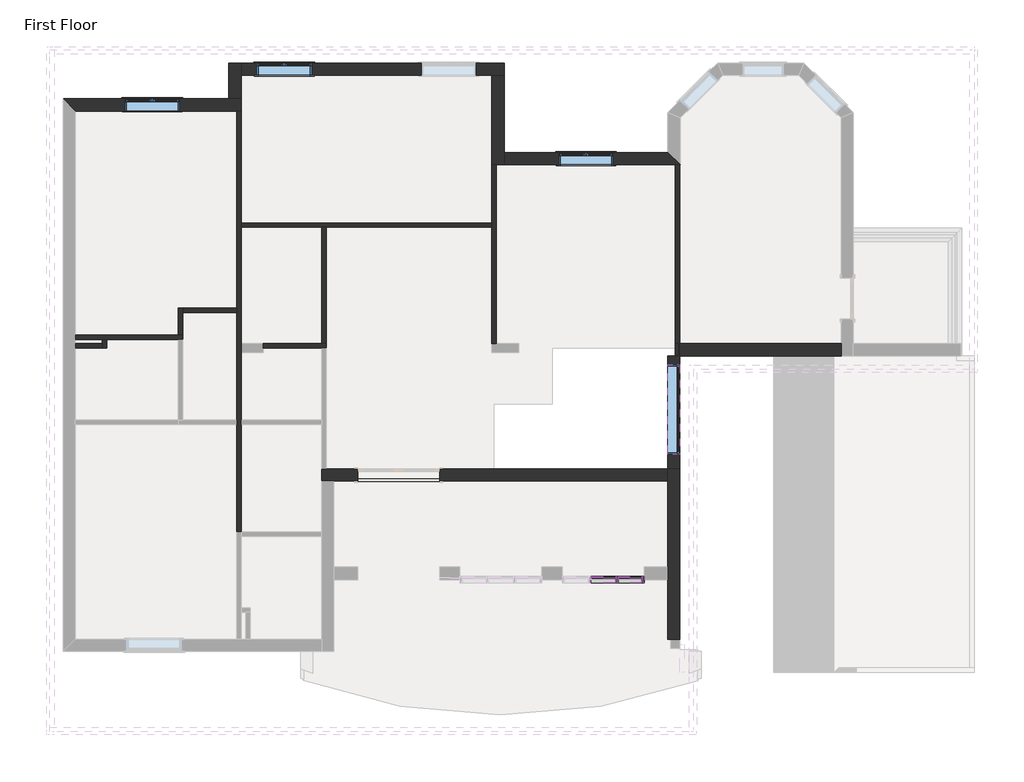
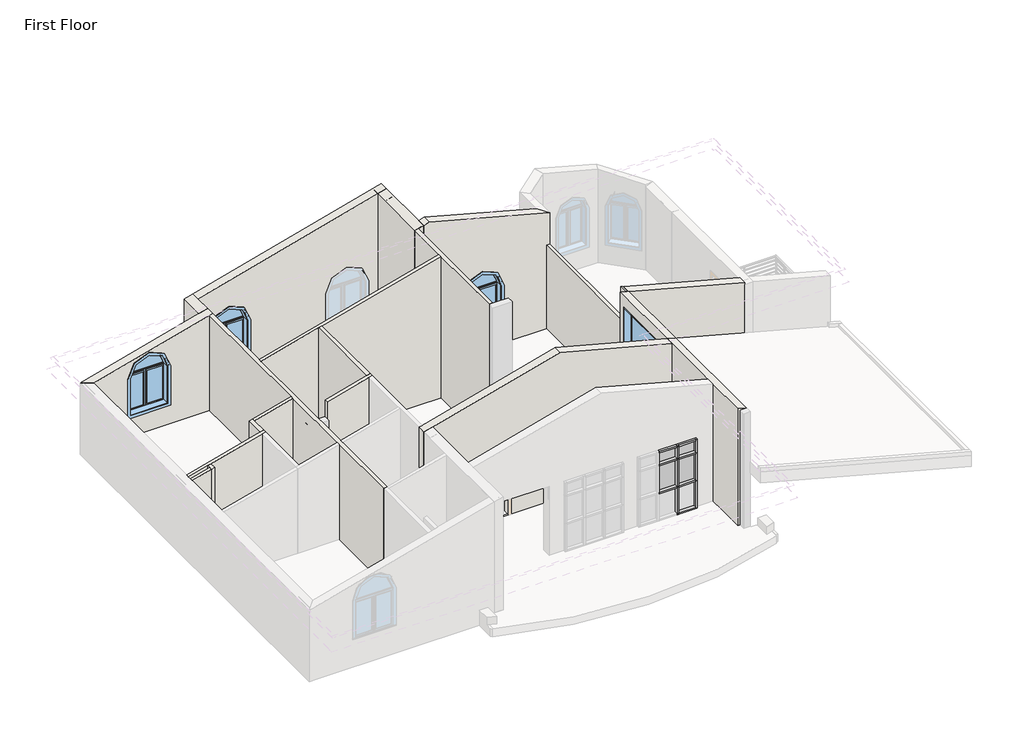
# One storey, part 2 of 3: 21 walls, 13 members, 5 windows, 4 plates.
"""IFC4 building model written with IfcOpenShell, lengths in millimetres."""

from ifc_helpers import new_model, si_unit, frame, origin, place, context, project, spatial, polyline, circle_curve, outline, extrude, faceted_brep, transform, mapped, element, save
from ifc_brep_helpers import plane_surface, revolved_surface, advanced_brep
from components import rectangular_mullion_50mm_x_150mm_ca11c66a, rectangular_mullion_50mm_x_150mm_94dfdfd7, rectangular_mullion_50mm_x_150mm_c5372db2, rectangular_mullion_50mm_x_150mm_8d9d5cce, rectangular_mullion_50mm_x_150mm_36cc9eb6, rectangular_mullion_50mm_x_150mm_df95c845, rectangular_mullion_50mm_x_150mm_b06d37f8, rectangular_mullion_50mm_x_150mm_dacbbbe8, system_panel_glazed_54fbfc96, system_panel_glazed_1253e8ac, system_panel_glazed_4efe49fa, system_panel_glazed_77dbd889, window_1220_x_1220mm_cc1a8abd, m_fixed_2000_x_1200mm_66f1d0cd

model = new_model("IFC4")

# Units and contexts
model_context = context("Model", 3, world=origin())
ifc_project = project(units=[si_unit("LENGTHUNIT", "METRE", prefix="MILLI")], contexts=[model_context])

# Site, building, storey
site = spatial("IfcSite", under=ifc_project)
building = spatial("IfcBuilding", under=site)
storey = spatial("IfcBuildingStorey", under=building, Name="First Floor", Elevation=3000.0)

# Members
placement = place(None, origin())
rectangular_mullion_50mm_x_150mm_shape = rectangular_mullion_50mm_x_150mm_ca11c66a(model_context)
element("IfcMember", 1, ObjectType="Rectangular Mullion : 50mm x 150mm", at=placement, inside=storey, context=model_context, shape_type="MappedRepresentation", body=[
    mapped(rectangular_mullion_50mm_x_150mm_shape, transform((4447.918054, -4965.1659495, 4833.3333333), x_axis=(0.0, 0.0, 1.0), y_axis=(0.0, -1.0, 0.0), z_axis=(1.0, 0.0, 0.0))),
])
element("IfcMember", 2, ObjectType="Rectangular Mullion : 50mm x 150mm", at=placement, inside=storey, context=model_context, shape_type="MappedRepresentation", body=[
    mapped(rectangular_mullion_50mm_x_150mm_shape, transform((4447.918054, -4965.1659495, 3916.6666667), x_axis=(0.0, 0.0, 1.0), y_axis=(0.0, -1.0, 0.0), z_axis=(1.0, 0.0, 0.0))),
])
rectangular_mullion_50mm_x_150mm_2_shape = rectangular_mullion_50mm_x_150mm_94dfdfd7(model_context)
element("IfcMember", 3, ObjectType="Rectangular Mullion : 50mm x 150mm", at=placement, inside=storey, context=model_context, shape_type="MappedRepresentation", body=[
    mapped(rectangular_mullion_50mm_x_150mm_2_shape, transform((4472.918054, -4965.1659495, 3916.6666667), x_axis=(1.0, 0.0, 0.0), y_axis=(0.0, -1.0, 0.0), z_axis=(0.0, 0.0, -1.0))),
])
rectangular_mullion_50mm_x_150mm_3_shape = rectangular_mullion_50mm_x_150mm_c5372db2(model_context)
element("IfcMember", 4, ObjectType="Rectangular Mullion : 50mm x 150mm", at=placement, inside=storey, context=model_context, shape_type="MappedRepresentation", body=[
    mapped(rectangular_mullion_50mm_x_150mm_3_shape, transform((4472.918054, -4965.1659495, 4833.3333333), x_axis=(1.0, 0.0, 0.0), y_axis=(0.0, -1.0, 0.0), z_axis=(0.0, 0.0, -1.0))),
])
rectangular_mullion_50mm_x_150mm_4_shape = rectangular_mullion_50mm_x_150mm_8d9d5cce(model_context)
element("IfcMember", 5, ObjectType="Rectangular Mullion : 50mm x 150mm", at=placement, inside=storey, context=model_context, shape_type="MappedRepresentation", body=[
    mapped(rectangular_mullion_50mm_x_150mm_4_shape, transform((4447.918054, -4965.1659495, 5278.2737043), x_axis=(0.0, 0.0, 1.0), y_axis=(0.0, -1.0, 0.0), z_axis=(1.0, 0.0, 0.0))),
])
rectangular_mullion_50mm_x_150mm_5_shape = rectangular_mullion_50mm_x_150mm_36cc9eb6(model_context)
element("IfcMember", 6, ObjectType="Rectangular Mullion : 50mm x 150mm", at=placement, inside=storey, context=model_context, shape_type="MappedRepresentation", body=[
    mapped(rectangular_mullion_50mm_x_150mm_5_shape, transform((5032.918054, -4965.1659495, 4833.3333333), x_axis=(0.0, 0.0, 1.0), y_axis=(0.0, -1.0, 0.0), z_axis=(1.0, 0.0, 0.0))),
])
element("IfcMember", 7, ObjectType="Rectangular Mullion : 50mm x 150mm", at=placement, inside=storey, context=model_context, shape_type="MappedRepresentation", body=[
    mapped(rectangular_mullion_50mm_x_150mm_5_shape, transform((5032.918054, -4965.1659495, 3916.6666667), x_axis=(0.0, 0.0, 1.0), y_axis=(0.0, -1.0, 0.0), z_axis=(1.0, 0.0, 0.0))),
])
rectangular_mullion_50mm_x_150mm_6_shape = rectangular_mullion_50mm_x_150mm_df95c845(model_context)
element("IfcMember", 8, ObjectType="Rectangular Mullion : 50mm x 150mm", at=placement, inside=storey, context=model_context, shape_type="MappedRepresentation", body=[
    mapped(rectangular_mullion_50mm_x_150mm_6_shape, transform((5032.918054, -4965.1659495, 5278.2737043), x_axis=(0.0, 0.0, 1.0), y_axis=(0.0, -1.0, 0.0), z_axis=(1.0, 0.0, 0.0))),
])
rectangular_mullion_50mm_x_150mm_7_shape = rectangular_mullion_50mm_x_150mm_b06d37f8(model_context)
element("IfcMember", 9, ObjectType="Rectangular Mullion : 50mm x 150mm", at=placement, inside=storey, context=model_context, shape_type="MappedRepresentation", body=[
    mapped(rectangular_mullion_50mm_x_150mm_7_shape, transform((5082.918054, -4965.1659495, 4833.3333333), x_axis=(1.0, 0.0, 0.0), y_axis=(0.0, -1.0, 0.0), z_axis=(0.0, 0.0, -1.0))),
])
rectangular_mullion_50mm_x_150mm_8_shape = rectangular_mullion_50mm_x_150mm_dacbbbe8(model_context)
element("IfcMember", 10, ObjectType="Rectangular Mullion : 50mm x 150mm", at=placement, inside=storey, context=model_context, shape_type="MappedRepresentation", body=[
    mapped(rectangular_mullion_50mm_x_150mm_8_shape, transform((5082.918054, -4965.1659495, 3916.6666667), x_axis=(1.0, 0.0, 0.0), y_axis=(0.0, -1.0, 0.0), z_axis=(0.0, 0.0, -1.0))),
])
element("IfcMember", 11, ObjectType="Rectangular Mullion : 50mm x 150mm", at=placement, inside=storey, context=model_context, shape_type="MappedRepresentation", body=[
    mapped(rectangular_mullion_50mm_x_150mm_2_shape, transform((4472.918054, -4965.1659495, 3000.0), x_axis=(1.0, 0.0, 0.0), y_axis=(0.0, -1.0, 0.0), z_axis=(0.0, 0.0, -1.0))),
])
element("IfcMember", 12, ObjectType="Rectangular Mullion : 50mm x 150mm", at=placement, inside=storey, context=model_context, shape_type="MappedRepresentation", body=[
    mapped(rectangular_mullion_50mm_x_150mm_6_shape, transform((4497.918054, -4965.1659495, 3000.0), x_axis=(0.0, 0.0, -1.0), y_axis=(0.0, -1.0, 0.0), z_axis=(-1.0, 0.0, 0.0))),
])
element("IfcMember", 13, ObjectType="Rectangular Mullion : 50mm x 150mm", at=placement, inside=storey, context=model_context, shape_type="MappedRepresentation", body=[
    mapped(rectangular_mullion_50mm_x_150mm_8_shape, transform((5082.918054, -4965.1659495, 3000.0), x_axis=(1.0, 0.0, 0.0), y_axis=(0.0, -1.0, 0.0), z_axis=(0.0, 0.0, -1.0))),
])

# Plates
system_panel_glazed_shape = system_panel_glazed_54fbfc96(model_context)
element("IfcPlate", 14, ObjectType="System Panel : Glazed", at=placement, inside=storey, context=model_context, shape_type="MappedRepresentation", body=[
    mapped(system_panel_glazed_shape, transform((4167.918054, -4965.1659495, 3941.6666667), x_axis=(1.0, 0.0, 0.0), y_axis=(0.0, 1.0, 0.0), z_axis=(0.0, 0.0, 1.0))),
])
system_panel_glazed_2_shape = system_panel_glazed_1253e8ac(model_context)
element("IfcPlate", 15, ObjectType="System Panel : Glazed", at=placement, inside=storey, context=model_context, shape_type="MappedRepresentation", body=[
    mapped(system_panel_glazed_2_shape, transform((4167.918054, -4965.1659495, 4858.3333333), x_axis=(1.0, 0.0, 0.0), y_axis=(0.0, 1.0, 0.0), z_axis=(0.0, 0.0, 1.0))),
])
system_panel_glazed_3_shape = system_panel_glazed_4efe49fa(model_context)
element("IfcPlate", 16, ObjectType="System Panel : Glazed", at=placement, inside=storey, context=model_context, shape_type="MappedRepresentation", body=[
    mapped(system_panel_glazed_3_shape, transform((4765.418054, -4965.1659495, 3941.6666667), x_axis=(1.0, 0.0, 0.0), y_axis=(0.0, 1.0, 0.0), z_axis=(0.0, 0.0, 1.0))),
])
system_panel_glazed_4_shape = system_panel_glazed_77dbd889(model_context)
element("IfcPlate", 17, ObjectType="System Panel : Glazed", at=placement, inside=storey, context=model_context, shape_type="MappedRepresentation", body=[
    mapped(system_panel_glazed_4_shape, transform((4765.418054, -4965.1659495, 4858.3333333), x_axis=(1.0, 0.0, 0.0), y_axis=(0.0, 1.0, 0.0), z_axis=(0.0, 0.0, 1.0))),
])

# Walls
element("IfcWall", 18, ObjectType="Generic - 270 mm", at=placement, inside=storey, context=model_context, shape_type="AdvancedBrep", body=[
    advanced_brep(
    [(-7617.081946, 5504.8340505, 3000.0), (-4017.081946, 5504.8340505, 3000.0), (-3917.081946, 5504.8340505, 3000.0), (-3917.081946, 5504.8340505, 6163.758294), (-4017.081946, 5504.8340505, 6136.9633747), (-7617.081946, 5504.8340505, 5172.346282), (-5292.081946, 5504.8340505, 4919.05), (-5292.081946, 5504.8340505, 3680.0), (-6512.081946, 5504.8340505, 3680.0), (-6512.081946, 5504.8340505, 4919.05), (-7887.081946, 5774.8340505, 2750.0), (-7887.081946, 5774.8340505, 5100.0), (-4187.081946, 5774.8340505, 6091.412012), (-3917.081946, 5774.8340505, 6163.758294), (-3917.081946, 5774.8340505, 3000.0), (-3917.081946, 5774.8340505, 2750.0), (-4132.081946, 5774.8340505, 2750.0), (-4187.081946, 5774.8340505, 2750.0), (-7617.081946, 5774.8340505, 2750.0), (-5292.081946, 5774.8340505, 4919.05), (-6512.081946, 5774.8340505, 4919.05), (-6512.081946, 5774.8340505, 3680.0), (-5292.081946, 5774.8340505, 3680.0), (-7832.081946, 5719.8340505, 2750.0), (-7832.081946, 5719.8340505, 3000.0), (-3917.081946, 5719.8340505, 3000.0), (-3917.081946, 5719.8340505, 2750.0)],
    [
        (0, 1),
        (1, 2),
        (2, 3),
        (3, 4),
        (4, 5),
        (5, 0),
        (6, 7),
        (7, 8),
        (8, 9),
        (9, 6, circle_curve(frame((-5902.081946, 5504.8340505, 4919.05), z_axis=(0.0, 1.0, 0.0), x_axis=(1.0, 0.0, 0.0)), 610.0)),
        (10, 11),
        (11, 12),
        (12, 13),
        (13, 14),
        (14, 15),
        (15, 16),
        (16, 17),
        (17, 18),
        (18, 10),
        (19, 20, circle_curve(frame((-5902.081946, 5774.8340505, 4919.05), z_axis=(0.0, -1.0, 0.0), x_axis=(1.0, 0.0, 0.0)), 610.0)),
        (20, 21),
        (21, 22),
        (22, 19),
        (5, 11),
        (10, 23),
        (23, 24),
        (24, 0),
        (2, 25),
        (25, 26),
        (26, 15),
        (13, 3),
        (24, 25),
        (23, 26),
        (6, 19),
        (22, 7),
        (21, 8),
        (20, 9),
    ],
    [
        plane_surface(frame((-7887.081946, 5504.8340505, 3000.0), z_axis=(0.0, -1.0, 0.0), x_axis=(1.0, 0.0, 0.0))),
        plane_surface(frame((-7887.081946, 5774.8340505, 3000.0), z_axis=(0.0, 1.0, 0.0), x_axis=(-1.0, 0.0, 0.0))),
        plane_surface(frame((-7887.081946, 5774.8340505, 3000.0), z_axis=(-0.707106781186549, -0.7071067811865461, 0.0), x_axis=(0.7071067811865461, -0.707106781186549, 0.0))),
        plane_surface(frame((-3917.081946, 5774.8340505, 3000.0), z_axis=(1.0, 0.0, 0.0), x_axis=(0.0, 1.0, 0.0))),
        plane_surface(frame((-7752.081946, 5504.8340505, 3000.0), z_axis=(0.0, 0.0, -1.0), x_axis=(0.0, 1.0, 0.0))),
        plane_surface(frame((-7752.081946, 5719.8340505, 3000.0), z_axis=(0.0, -1.0, 0.0), x_axis=(1.0, 0.0, 0.0))),
        plane_surface(frame((0.0, 0.0, 2750.0), z_axis=(0.0, 0.0, -1.0), x_axis=(1.0, 0.0, 0.0))),
        plane_surface(frame((-8187.081946, 6874.8340505, 5019.6152423), z_axis=(-0.25881904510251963, 0.0, 0.9659258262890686), x_axis=(0.0, -1.0, 0.0))),
        plane_surface(frame((-5292.081946, 5504.8340505, 4919.05), z_axis=(-1.0, 0.0, 0.0), x_axis=(0.0, 1.0, 0.0))),
        plane_surface(frame((-5292.081946, 5504.8340505, 3680.0), z_axis=(0.0, 0.0, 1.0), x_axis=(0.0, 1.0, 0.0))),
        plane_surface(frame((-6512.081946, 5504.8340505, 3680.0), z_axis=(1.0, 0.0, 0.0), x_axis=(0.0, 1.0, 0.0))),
        revolved_surface(polyline([(-5292.081946, 5774.8340505, 4919.05), (-5292.081946, 5504.8340505, 4919.05)]), (-5902.081946, 5504.8340505, 4919.05), (0.0, 1.0, 0.0)),
    ],
    [
        (0, [[1, 2, 3, 4, 5, 6], [7, 8, 9, 10]]),
        (1, [[11, 12, 13, 14, 15, 16, 17, 18, 19], [20, 21, 22, 23]]),
        (2, [[-6, 24, -11, 25, 26, 27]]),
        (3, [[-3, 28, 29, 30, -15, -14, 31]]),
        (4, [[-2, -1, -27, 32, -28]]),
        (5, [[-32, -26, 33, -29]]),
        (6, [[-25, -19, -18, -17, -16, -30, -33]]),
        (7, [[-5, -4, -31, -13, -12, -24]]),
        (8, [[-7, 34, -23, 35]]),
        (9, [[-8, -35, -22, 36]]),
        (10, [[-9, -36, -21, 37]]),
        (11, [[-10, -37, -20, -34]]),
    ],
),
])
element("IfcWall", 19, ObjectType="Generic - 270 mm", at=placement, inside=storey, context=model_context, shape_type="Brep", body=[
    faceted_brep([(-3917.081946, 5774.8340505, 3000.0), (-3917.081946, 6304.8340505, 3000.0), (-3917.081946, 6574.8340505, 3000.0), (-3917.081946, 6574.8340505, 6163.758294), (-3917.081946, 6304.8340505, 6163.758294), (-3917.081946, 5774.8340505, 6163.758294), (-4187.081946, 5774.8340505, 2750.0), (-4187.081946, 5774.8340505, 6091.412012), (-4187.081946, 6574.8340505, 6091.412012), (-4187.081946, 6574.8340505, 2750.0), (-4132.081946, 6574.8340505, 3000.0), (-4132.081946, 6574.8340505, 2750.0), (-4132.081946, 5774.8340505, 2750.0), (-4132.081946, 5774.8340505, 3000.0), (-4132.081946, 6519.8340505, 3000.0), (-4132.081946, 6519.8340505, 2750.0)], [[[0, 1, 2, 3, 4, 5]], [[6, 7, 8, 9]], [[3, 2, 10, 11, 9, 8]], [[0, 5, 7, 6, 12, 13]], [[5, 4, 3, 8, 7]], [[2, 1, 0, 13, 14, 10]], [[10, 14, 13, 12, 15, 11]], [[12, 6, 9, 11, 15]]]),
])
element("IfcWall", 20, ObjectType="Generic - 270 mm", at=placement, inside=storey, context=model_context, shape_type="AdvancedBrep", body=[
    advanced_brep(
    [(-3917.081946, 6304.8340505, 3000.0), (1682.918054, 6304.8340505, 3000.0), (1952.918054, 6304.8340505, 3000.0), (1952.918054, 6304.8340505, 7736.6200535), (1682.918054, 6304.8340505, 7664.2737716), (-3917.081946, 6304.8340505, 6163.758294), (-2342.081946, 6304.8340505, 4919.05), (-2342.081946, 6304.8340505, 3680.0), (-3562.081946, 6304.8340505, 3680.0), (-3562.081946, 6304.8340505, 4919.05), (1327.918054, 6304.8340505, 4919.05), (1327.918054, 6304.8340505, 3680.0), (107.918054, 6304.8340505, 3680.0), (107.918054, 6304.8340505, 4919.05), (1952.918054, 6574.8340505, 7736.6200535), (1952.918054, 6574.8340505, 2750.0), (-3917.081946, 6574.8340505, 2750.0), (-4132.081946, 6574.8340505, 2750.0), (-4132.081946, 6574.8340505, 3000.0), (-3917.081946, 6574.8340505, 3000.0), (-3917.081946, 6574.8340505, 6163.758294), (-2342.081946, 6574.8340505, 4919.05), (-3562.081946, 6574.8340505, 4919.05), (-3562.081946, 6574.8340505, 3680.0), (-2342.081946, 6574.8340505, 3680.0), (1327.918054, 6574.8340505, 4919.05), (107.918054, 6574.8340505, 4919.05), (107.918054, 6574.8340505, 3680.0), (1327.918054, 6574.8340505, 3680.0), (-3917.081946, 6519.8340505, 3000.0), (1952.918054, 6519.8340505, 3000.0), (1952.918054, 6519.8340505, 2750.0), (1897.918054, 6519.8340505, 3000.0), (-4132.081946, 6519.8340505, 3000.0), (-4132.081946, 6519.8340505, 2750.0), (1897.918054, 6519.8340505, 2750.0)],
    [
        (0, 1),
        (1, 2),
        (2, 3),
        (3, 4),
        (4, 5),
        (5, 0),
        (6, 7),
        (7, 8),
        (8, 9),
        (9, 6, circle_curve(frame((-2952.081946, 6304.8340505, 4919.05), z_axis=(0.0, 1.0, 0.0), x_axis=(1.0, 0.0, 0.0)), 610.0)),
        (10, 11),
        (11, 12),
        (12, 13),
        (13, 10, circle_curve(frame((717.918054, 6304.8340505, 4919.05), z_axis=(0.0, 1.0, 0.0), x_axis=(1.0, 0.0, 0.0)), 610.0)),
        (14, 15),
        (15, 16),
        (16, 17),
        (17, 18),
        (18, 19),
        (19, 20),
        (20, 14),
        (21, 22, circle_curve(frame((-2952.081946, 6574.8340505, 4919.05), z_axis=(0.0, -1.0, 0.0), x_axis=(1.0, 0.0, 0.0)), 610.0)),
        (22, 23),
        (23, 24),
        (24, 21),
        (25, 26, circle_curve(frame((717.918054, 6574.8340505, 4919.05), z_axis=(0.0, -1.0, 0.0), x_axis=(1.0, 0.0, 0.0)), 610.0)),
        (26, 27),
        (27, 28),
        (28, 25),
        (5, 20),
        (19, 29),
        (29, 0),
        (2, 30),
        (30, 31),
        (31, 15),
        (14, 3),
        (29, 32),
        (32, 30),
        (29, 33),
        (33, 34),
        (34, 35),
        (35, 31),
        (34, 17),
        (18, 33),
        (6, 21),
        (24, 7),
        (23, 8),
        (22, 9),
        (10, 25),
        (28, 11),
        (27, 12),
        (26, 13),
    ],
    [
        plane_surface(frame((-4187.081946, 6304.8340505, 3000.0), z_axis=(0.0, -1.0, 0.0), x_axis=(1.0, 0.0, 0.0))),
        plane_surface(frame((-4187.081946, 6574.8340505, 3000.0), z_axis=(0.0, 1.0, 0.0), x_axis=(-1.0, 0.0, 0.0))),
        plane_surface(frame((-3917.081946, 5774.8340505, 3000.0), z_axis=(-1.0, 0.0, 0.0), x_axis=(0.0, 1.0, 0.0))),
        plane_surface(frame((1952.918054, 6574.8340505, 3000.0), z_axis=(1.0, 0.0, 0.0), x_axis=(0.0, 1.0, 0.0))),
        plane_surface(frame((-4052.081946, 6304.8340505, 3000.0), z_axis=(0.0, 0.0, -1.0), x_axis=(0.0, 1.0, 0.0))),
        plane_surface(frame((-4052.081946, 6519.8340505, 3000.0), z_axis=(0.0, -1.0, 0.0), x_axis=(1.0, 0.0, 0.0))),
        plane_surface(frame((0.0, 0.0, 2750.0), z_axis=(0.0, 0.0, -1.0), x_axis=(1.0, 0.0, 0.0))),
        plane_surface(frame((-4052.081946, 6519.8340505, 3000.0), z_axis=(0.0, 0.0, 1.0), x_axis=(1.0, 0.0, 0.0))),
        plane_surface(frame((-4132.081946, 6519.8340505, 2750.0), z_axis=(-1.0, 0.0, 0.0), x_axis=(0.0, 0.0, 1.0))),
        plane_surface(frame((-8187.081946, 6874.8340505, 5019.6152423), z_axis=(-0.25881904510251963, 0.0, 0.9659258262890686), x_axis=(0.0, -1.0, 0.0))),
        plane_surface(frame((-2342.081946, 6304.8340505, 4919.05), z_axis=(-1.0, 0.0, 0.0), x_axis=(0.0, 1.0, 0.0))),
        plane_surface(frame((-2342.081946, 6304.8340505, 3680.0), z_axis=(0.0, 0.0, 1.0), x_axis=(0.0, 1.0, 0.0))),
        plane_surface(frame((-3562.081946, 6304.8340505, 3680.0), z_axis=(1.0, 0.0, 0.0), x_axis=(0.0, 1.0, 0.0))),
        revolved_surface(polyline([(-2342.081946, 6574.8340505, 4919.05), (-2342.081946, 6304.8340505, 4919.05)]), (-2952.081946, 6304.8340505, 4919.05), (0.0, 1.0, 0.0)),
        plane_surface(frame((1327.918054, 6304.8340505, 4919.05), z_axis=(-1.0, 0.0, 0.0), x_axis=(0.0, 1.0, 0.0))),
        plane_surface(frame((1327.918054, 6304.8340505, 3680.0), z_axis=(0.0, 0.0, 1.0), x_axis=(0.0, 1.0, 0.0))),
        plane_surface(frame((107.918054, 6304.8340505, 3680.0), z_axis=(1.0, 0.0, 0.0), x_axis=(0.0, 1.0, 0.0))),
        revolved_surface(polyline([(1327.918054, 6574.8340505, 4919.05), (1327.918054, 6304.8340505, 4919.05)]), (717.918054, 6304.8340505, 4919.05), (0.0, 1.0, 0.0)),
    ],
    [
        (0, [[1, 2, 3, 4, 5, 6], [7, 8, 9, 10], [11, 12, 13, 14]]),
        (1, [[15, 16, 17, 18, 19, 20, 21], [22, 23, 24, 25], [26, 27, 28, 29]]),
        (2, [[-6, 30, -20, 31, 32]]),
        (3, [[-3, 33, 34, 35, -15, 36]]),
        (4, [[-2, -1, -32, 37, 38, -33]]),
        (5, [[-38, -37, 39, 40, 41, 42, -34]]),
        (6, [[-17, -16, -35, -42, -41, 43]]),
        (7, [[-39, -31, -19, 44]]),
        (8, [[-43, -40, -44, -18]]),
        (9, [[-5, -4, -36, -21, -30]]),
        (10, [[-7, 45, -25, 46]]),
        (11, [[-8, -46, -24, 47]]),
        (12, [[-9, -47, -23, 48]]),
        (13, [[-10, -48, -22, -45]]),
        (14, [[-11, 49, -29, 50]]),
        (15, [[-12, -50, -28, 51]]),
        (16, [[-13, -51, -27, 52]]),
        (17, [[-14, -52, -26, -49]]),
    ],
),
])
element("IfcWall", 21, ObjectType="Generic - 270 mm", at=placement, inside=storey, context=model_context, shape_type="Brep", body=[
    faceted_brep([(1682.918054, 6304.8340505, 3000.0), (1682.918054, 4304.8340505, 3000.0), (1682.918054, 4304.8340505, 7664.2737716), (1682.918054, 6304.8340505, 7664.2737716), (1952.918054, 6304.8340505, 7736.6200535), (1952.918054, 4574.8340505, 7736.6200535), (1952.918054, 4304.8340505, 7736.6200535), (1952.918054, 4304.8340505, 3000.0), (1952.918054, 4519.8340505, 3000.0), (1952.918054, 4519.8340505, 2750.0), (1952.918054, 4574.8340505, 2750.0), (1952.918054, 6304.8340505, 2750.0), (1952.918054, 6519.8340505, 2750.0), (1952.918054, 6519.8340505, 3000.0), (1952.918054, 6304.8340505, 3000.0), (1782.918054, 4304.8340505, 3000.0), (1782.918054, 4304.8340505, 7691.0686908), (1897.918054, 6304.8340505, 3000.0), (1897.918054, 4519.8340505, 3000.0), (1897.918054, 6519.8340505, 3000.0), (1897.918054, 6519.8340505, 2750.0), (1897.918054, 4519.8340505, 2750.0)], [[[0, 1, 2, 3]], [[4, 5, 6, 7, 8, 9, 10, 11, 12, 13, 14]], [[2, 1, 15, 7, 6, 16]], [[0, 3, 4, 14, 17]], [[3, 2, 16, 6, 5, 4]], [[1, 0, 17, 18, 8, 7, 15]], [[18, 17, 19, 20, 21]], [[12, 11, 10, 9, 21, 20]], [[8, 18, 21, 9]], [[19, 17, 14, 13]], [[12, 20, 19, 13]]]),
])
element("IfcWall", 22, ObjectType="Generic - 270 mm", at=placement, inside=storey, context=model_context, shape_type="AdvancedBrep", body=[
    advanced_brep(
    [(1952.918054, 4304.8340505, 3000.0), (5781.043054, 4304.8340505, 3000.0), (5881.043054, 4304.8340505, 3000.0), (5882.918054, 4304.8340505, 3000.0), (5882.918054, 4304.8340505, 6780.0414365), (2132.918054, 4304.8340505, 7784.8509082), (1952.918054, 4304.8340505, 7736.6200535), (4392.918054, 4304.8340505, 4919.05), (4392.918054, 4304.8340505, 3680.0), (3172.918054, 4304.8340505, 3680.0), (3172.918054, 4304.8340505, 4919.05), (1952.918054, 4574.8340505, 2750.0), (1952.918054, 4574.8340505, 7736.6200535), (2132.918054, 4574.8340505, 7784.8509082), (5612.918054, 4574.8340505, 6852.3877185), (5612.918054, 4574.8340505, 2750.0), (4392.918054, 4574.8340505, 4919.05), (3172.918054, 4574.8340505, 4919.05), (3172.918054, 4574.8340505, 3680.0), (4392.918054, 4574.8340505, 3680.0), (1952.918054, 4519.8340505, 2750.0), (1952.918054, 4519.8340505, 3000.0), (5667.918054, 4519.8340505, 3000.0), (5667.918054, 4519.8340505, 2750.0)],
    [
        (0, 1),
        (1, 2),
        (2, 3),
        (3, 4),
        (4, 5),
        (5, 6),
        (6, 0),
        (7, 8),
        (8, 9),
        (9, 10),
        (10, 7, circle_curve(frame((3782.918054, 4304.8340505, 4919.05), z_axis=(0.0, 1.0, 0.0), x_axis=(1.0, 0.0, 0.0)), 610.0)),
        (11, 12),
        (12, 13),
        (13, 14),
        (14, 15),
        (15, 11),
        (16, 17, circle_curve(frame((3782.918054, 4574.8340505, 4919.05), z_axis=(0.0, -1.0, 0.0), x_axis=(1.0, 0.0, 0.0)), 610.0)),
        (17, 18),
        (18, 19),
        (19, 16),
        (6, 12),
        (11, 20),
        (20, 21),
        (21, 0),
        (3, 22),
        (22, 23),
        (23, 15),
        (14, 4),
        (21, 22),
        (20, 23),
        (5, 13),
        (7, 16),
        (19, 8),
        (18, 9),
        (17, 10),
    ],
    [
        plane_surface(frame((1952.918054, 4304.8340505, 3000.0), z_axis=(0.0, -1.0, 0.0), x_axis=(1.0, 0.0, 0.0))),
        plane_surface(frame((1952.918054, 4574.8340505, 3000.0), z_axis=(0.0, 1.0, 0.0), x_axis=(-1.0, 0.0, 0.0))),
        plane_surface(frame((1952.918054, 6574.8340505, 3000.0), z_axis=(-1.0, 0.0, 0.0), x_axis=(0.0, 1.0, 0.0))),
        plane_surface(frame((5882.918054, 4304.8340505, 3000.0), z_axis=(0.7071067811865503, 0.7071067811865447, 0.0), x_axis=(-0.7071067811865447, 0.7071067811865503, 0.0))),
        plane_surface(frame((1817.918054, 4304.8340505, 3000.0), z_axis=(0.0, 0.0, -1.0), x_axis=(0.0, 1.0, 0.0))),
        plane_surface(frame((1817.918054, 4519.8340505, 3000.0), z_axis=(0.0, -1.0, 0.0), x_axis=(1.0, 0.0, 0.0))),
        plane_surface(frame((0.0, 0.0, 2750.0), z_axis=(0.0, 0.0, -1.0), x_axis=(1.0, 0.0, 0.0))),
        plane_surface(frame((-8187.081946, 6874.8340505, 5019.6152423), z_axis=(-0.25881904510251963, 0.0, 0.9659258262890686), x_axis=(0.0, -1.0, 0.0))),
        plane_surface(frame((12452.918054, -8365.1659495, 5019.6152423), z_axis=(0.2588190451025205, 0.0, 0.9659258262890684), x_axis=(0.0, 1.0, 0.0))),
        plane_surface(frame((4392.918054, 4304.8340505, 4919.05), z_axis=(-1.0, 0.0, 0.0), x_axis=(0.0, 1.0, 0.0))),
        plane_surface(frame((4392.918054, 4304.8340505, 3680.0), z_axis=(0.0, 0.0, 1.0), x_axis=(0.0, 1.0, 0.0))),
        plane_surface(frame((3172.918054, 4304.8340505, 3680.0), z_axis=(1.0, 0.0, 0.0), x_axis=(0.0, 1.0, 0.0))),
        revolved_surface(polyline([(4392.918054, 4574.8340505, 4919.05), (4392.918054, 4304.8340505, 4919.05)]), (3782.918054, 4304.8340505, 4919.05), (0.0, 1.0, 0.0)),
    ],
    [
        (0, [[1, 2, 3, 4, 5, 6, 7], [8, 9, 10, 11]]),
        (1, [[12, 13, 14, 15, 16], [17, 18, 19, 20]]),
        (2, [[-7, 21, -12, 22, 23, 24]]),
        (3, [[-4, 25, 26, 27, -15, 28]]),
        (4, [[-3, -2, -1, -24, 29, -25]]),
        (5, [[-29, -23, 30, -26]]),
        (6, [[-22, -16, -27, -30]]),
        (7, [[-6, 31, -13, -21]]),
        (8, [[-5, -28, -14, -31]]),
        (9, [[-8, 32, -20, 33]]),
        (10, [[-9, -33, -19, 34]]),
        (11, [[-10, -34, -18, 35]]),
        (12, [[-11, -35, -17, -32]]),
    ],
),
])
element("IfcWall", 23, ObjectType="Generic - 270 mm", at=placement, inside=storey, context=model_context, shape_type="Brep", body=[
    faceted_brep([(5611.043054, -2495.1659495, 6852.8901232), (5611.043054, -2495.1659495, 3000.0), (512.918054, -2495.1659495, 3000.0), (512.918054, -2495.1659495, 4900.0), (-1317.081946, -2495.1659495, 4900.0), (-1317.081946, -2495.1659495, 3000.0), (-2017.081946, -2495.1659495, 3000.0), (-2117.081946, -2495.1659495, 3000.0), (-2117.081946, -2495.1659495, 6646.0668403), (-2017.081946, -2495.1659495, 6672.8617596), (2132.918054, -2495.1659495, 7784.8509082), (5611.043054, -2765.1659495, 2750.0), (5611.043054, -2765.1659495, 6852.8901232), (2132.918054, -2765.1659495, 7784.8509082), (-1847.081946, -2765.1659495, 6718.4131223), (-2117.081946, -2765.1659495, 6646.0668403), (-2117.081946, -2765.1659495, 3000.0), (-1902.081946, -2765.1659495, 3000.0), (-1902.081946, -2765.1659495, 2750.0), (-1847.081946, -2765.1659495, 2750.0), (-1317.081946, -2765.1659495, 3000.0), (-1317.081946, -2765.1659495, 4900.0), (512.918054, -2765.1659495, 4900.0), (512.918054, -2765.1659495, 3000.0), (5611.043054, -2710.1659495, 2750.0), (5611.043054, -2710.1659495, 3000.0), (512.918054, -2710.1659495, 3000.0), (-1902.081946, -2710.1659495, 3000.0), (-1317.081946, -2710.1659495, 3000.0), (-1902.081946, -2710.1659495, 2750.0)], [[[0, 1, 2, 3, 4, 5, 6, 7, 8, 9, 10]], [[11, 12, 13, 14, 15, 16, 17, 18, 19], [20, 21, 22, 23]], [[1, 0, 12, 11, 24, 25]], [[8, 7, 16, 15]], [[1, 25, 26, 2]], [[27, 17, 16, 7, 6, 5, 28]], [[25, 24, 29, 27, 28, 26]], [[24, 11, 19, 18, 29]], [[12, 0, 10, 13]], [[8, 15, 14, 13, 10, 9]], [[17, 27, 29, 18]], [[20, 28, 5, 4, 21]], [[21, 4, 3, 22]], [[22, 3, 2, 26, 23]], [[28, 20, 23, 26]]]),
])
element("IfcWall", 24, ObjectType="Generic - 270 mm Brick on both sides", at=placement, inside=storey, context=model_context, shape_type="Brep", body=[
    faceted_brep([(5881.043054, -6295.1659495, 3000.0), (5881.043054, -2495.1659495, 3000.0), (5881.043054, -2495.1659495, 6780.5438413), (5881.043054, -6295.1659495, 6780.5438413), (5611.043054, -6295.1659495, 2700.0), (5611.043054, -6295.1659495, 2750.0), (5611.043054, -6295.1659495, 6852.8901232), (5611.043054, -4965.1659495, 6852.8901232), (5611.043054, -4675.1659495, 6852.8901232), (5611.043054, -2765.1659495, 6852.8901232), (5611.043054, -2495.1659495, 6852.8901232), (5611.043054, -2495.1659495, 3000.0), (5611.043054, -2710.1659495, 3000.0), (5611.043054, -2710.1659495, 2750.0), (5611.043054, -2710.1659495, 2700.0), (5646.043054, -6295.1659495, 2700.0), (5646.043054, -6295.1659495, 3000.0), (5646.043054, -2710.1659495, 3000.0), (5646.043054, -2710.1659495, 2700.0)], [[[0, 1, 2, 3]], [[4, 5, 6, 7, 8, 9, 10, 11, 12, 13, 14]], [[2, 1, 11, 10]], [[0, 3, 6, 5, 4, 15, 16]], [[3, 2, 10, 9, 8, 7, 6]], [[1, 0, 16, 17, 12, 11]], [[16, 15, 18, 17]], [[15, 4, 14, 18]], [[12, 17, 18, 14, 13]]]),
])
element("IfcWall", 25, ObjectType="Generic - 270 mm Brick on both sides", at=placement, inside=storey, context=model_context, shape_type="Brep", body=[
    faceted_brep([(5881.043054, 304.8340505, 2700.0), (5881.043054, 304.8340505, 6780.5438413), (9482.918054, 304.8340505, 5815.4243438), (9482.918054, 304.8340505, 3000.0), (9697.918054, 304.8340505, 3000.0), (9697.918054, 304.8340505, 2700.0), (5881.043054, 34.8340505, 3000.0), (9482.918054, 34.8340505, 3000.0), (9482.918054, 34.8340505, 5750.0), (9482.918054, 34.8340505, 5815.4243438), (5881.043054, 34.8340505, 6780.5438413), (9482.918054, 269.8340505, 3000.0), (5881.043054, 269.8340505, 2700.0), (5881.043054, 269.8340505, 3000.0), (9697.918054, 269.8340505, 2700.0), (9697.918054, 269.8340505, 2750.0), (9697.918054, 269.8340505, 3000.0)], [[[0, 1, 2, 3, 4, 5]], [[6, 7, 8, 9, 10]], [[9, 8, 7, 11, 3, 2]], [[1, 0, 12, 13, 6, 10]], [[2, 1, 10, 9]], [[7, 6, 13, 11]], [[11, 13, 12, 14, 15, 16]], [[0, 5, 14, 12]], [[4, 3, 11, 16]], [[14, 5, 4, 16, 15]]]),
])
element("IfcWall", 26, ObjectType="Generic - 270 mm Brick on both sides", at=placement, inside=storey, context=model_context, shape_type="Brep", body=[
    faceted_brep([(5881.043054, -2495.1659495, 2750.0), (5881.043054, 34.8340505, 2750.0), (5881.043054, 34.8340505, 6780.5438413), (5881.043054, -2495.1659495, 6780.5438413), (5881.043054, -2495.1659495, 3000.0), (5881.043054, -162.6659495, 5273.9377671), (5881.043054, -2162.6659495, 5273.9377671), (5881.043054, -2162.6659495, 6473.9377671), (5881.043054, -162.6659495, 6473.9377671), (5881.043054, -162.6659495, 3323.9377671), (5881.043054, -2162.6659495, 3323.9377671), (5881.043054, -2162.6659495, 4523.9377671), (5881.043054, -162.6659495, 4523.9377671), (5611.043054, -2495.1659495, 2750.0), (5611.043054, -2495.1659495, 3000.0), (5611.043054, -2495.1659495, 6852.8901232), (5611.043054, 34.8340505, 6852.8901232), (5611.043054, 34.8340505, 2750.0), (5611.043054, -162.6659495, 5273.9377671), (5611.043054, -162.6659495, 6473.9377671), (5611.043054, -2162.6659495, 6473.9377671), (5611.043054, -2162.6659495, 5273.9377671), (5611.043054, -162.6659495, 3323.9377671), (5611.043054, -162.6659495, 4523.9377671), (5611.043054, -2162.6659495, 4523.9377671), (5611.043054, -2162.6659495, 3323.9377671), (5846.043054, -2495.1659495, 2750.0), (5846.043054, 34.8340505, 2750.0), (5781.043054, 34.8340505, 6807.3387605), (5847.918054, 34.8340505, 6789.4196583)], [[[0, 1, 2, 3, 4], [5, 6, 7, 8], [9, 10, 11, 12]], [[13, 14, 15, 16, 17], [18, 19, 20, 21], [22, 23, 24, 25]], [[0, 4, 3, 15, 14, 13, 26]], [[2, 1, 27, 17, 16, 28, 29]], [[3, 2, 29, 28, 16, 15]], [[26, 13, 17, 27]], [[1, 0, 26, 27]], [[19, 18, 5, 8]], [[20, 19, 8, 7]], [[21, 20, 7, 6]], [[18, 21, 6, 5]], [[23, 22, 9, 12]], [[24, 23, 12, 11]], [[25, 24, 11, 10]], [[22, 25, 10, 9]]]),
])
element("IfcWall", 27, ObjectType="Generic - 270 mm Brick on both sides", at=placement, inside=storey, context=model_context, shape_type="Brep", body=[
    faceted_brep([(5847.918054, 304.8340505, 2700.0), (5781.043054, 304.8340505, 2700.0), (5781.043054, 304.8340505, 3000.0), (5781.043054, 304.8340505, 5750.0), (5781.043054, 304.8340505, 6807.3387605), (5847.918054, 304.8340505, 6789.4196583), (5847.918054, 34.8340505, 3000.0), (5847.918054, 34.8340505, 6789.4196583), (5781.043054, 34.8340505, 6807.3387605), (5781.043054, 34.8340505, 3000.0), (5847.918054, 269.8340505, 3000.0), (5847.918054, 269.8340505, 2700.0), (5781.043054, 269.8340505, 2700.0), (5781.043054, 269.8340505, 3000.0)], [[[0, 1, 2, 3, 4, 5]], [[6, 7, 8, 9]], [[0, 5, 7, 6, 10, 11]], [[4, 3, 2, 1, 12, 13, 9, 8]], [[5, 4, 8, 7]], [[10, 6, 9, 13]], [[12, 11, 10, 13]], [[1, 0, 11, 12]]]),
])
element("IfcWall", 28, ObjectType="Interior - 100mm Partition (2-hr)", at=placement, inside=storey, context=model_context, shape_type="Brep", body=[
    faceted_brep([(-3417.081946, 204.8340505, 3000.0), (-2117.081946, 204.8340505, 3000.0), (-2017.081946, 204.8340505, 3000.0), (-2017.081946, 204.8340505, 6672.8617596), (-2117.081946, 204.8340505, 6646.0668403), (-3417.081946, 204.8340505, 6297.7328902), (-3417.081946, 304.8340505, 3000.0), (-3417.081946, 304.8340505, 6297.7328902), (-2117.081946, 304.8340505, 6646.0668403), (-2017.081946, 304.8340505, 6672.8617596), (-2017.081946, 304.8340505, 3000.0), (-2117.081946, 304.8340505, 3000.0)], [[[0, 1, 2, 3, 4, 5]], [[6, 7, 8, 9, 10, 11]], [[2, 1, 0, 6, 11, 10]], [[0, 5, 7, 6]], [[3, 2, 10, 9]], [[5, 4, 3, 9, 8, 7]]]),
])
element("IfcWall", 29, ObjectType="Interior - 100mm Partition (2-hr)", at=placement, inside=storey, context=model_context, shape_type="Brep", body=[
    faceted_brep([(-7617.081946, 404.8340505, 3000.0), (-7017.081946, 404.8340505, 3000.0), (-6917.081946, 404.8340505, 3000.0), (-5317.081946, 404.8340505, 3000.0), (-5217.081946, 404.8340505, 3000.0), (-5217.081946, 404.8340505, 5815.4243438), (-5317.081946, 404.8340505, 5788.6294245), (-6917.081946, 404.8340505, 5359.9107167), (-7017.081946, 404.8340505, 5333.1157974), (-7617.081946, 404.8340505, 5172.346282), (-7617.081946, 504.8340505, 3000.0), (-7617.081946, 504.8340505, 5172.346282), (-5317.081946, 504.8340505, 5788.6294245), (-5217.081946, 504.8340505, 5815.4243438), (-5217.081946, 504.8340505, 3000.0), (-5317.081946, 504.8340505, 3000.0)], [[[0, 1, 2, 3, 4, 5, 6, 7, 8, 9]], [[10, 11, 12, 13, 14, 15]], [[4, 3, 2, 1, 0, 10, 15, 14]], [[5, 4, 14, 13]], [[0, 9, 11, 10]], [[9, 8, 7, 6, 5, 13, 12, 11]]]),
])
element("IfcWall", 30, ObjectType="Interior - 100mm Partition (2-hr)", at=placement, inside=storey, context=model_context, shape_type="Brep", body=[
    faceted_brep([(-7017.081946, 404.8340505, 3000.0), (-7017.081946, 304.8340505, 3000.0), (-7017.081946, 204.8340505, 3000.0), (-7017.081946, 204.8340505, 5333.1157974), (-7017.081946, 304.8340505, 5333.1157974), (-7017.081946, 404.8340505, 5333.1157974), (-6917.081946, 404.8340505, 3000.0), (-6917.081946, 404.8340505, 5359.9107167), (-6917.081946, 204.8340505, 5359.9107167), (-6917.081946, 204.8340505, 3000.0)], [[[0, 1, 2, 3, 4, 5]], [[6, 7, 8, 9]], [[2, 1, 0, 6, 9]], [[3, 2, 9, 8]], [[0, 5, 7, 6]], [[5, 4, 3, 8, 7]]]),
])
element("IfcWall", 31, ObjectType="Interior - 100mm Partition (2-hr)", at=placement, inside=storey, context=model_context, shape_type="SweptSolid", body=[
    extrude(outline(polyline([(3000.0, -7017.081946), (5333.1157974, -7017.081946), (5172.346282, -7617.081946), (3000.0, -7617.081946), (3000.0, -7017.081946)])), frame((0.0, 204.8340505, 0.0), z_axis=(0.0, 1.0, 0.0), x_axis=(0.0, 0.0, 1.0)), (0.0, 0.0, 1.0), 100.0),
])
element("IfcWall", 32, ObjectType="Interior - 100mm Partition (2-hr)", at=placement, inside=storey, context=model_context, shape_type="SweptSolid", body=[
    extrude(outline(polyline([(3000.0, -2017.081946), (6672.8617596, -2017.081946), (6646.0668403, -2117.081946), (3000.0, -2117.081946), (3000.0, -2017.081946)])), frame((0.0, 304.8340505, 0.0), z_axis=(0.0, 1.0, 0.0), x_axis=(0.0, 0.0, 1.0)), (0.0, 0.0, 1.0), 2601.0),
])
element("IfcWall", 33, ObjectType="Interior -100mm Partition (1-hr)", at=placement, inside=storey, context=model_context, shape_type="Brep", body=[
    faceted_brep([(-4017.081946, 5504.8340505, 3000.0), (-4017.081946, 1104.8340505, 3000.0), (-4017.081946, 1004.8340505, 3000.0), (-4017.081946, -1395.1659495, 3000.0), (-4017.081946, -1495.1659495, 3000.0), (-4017.081946, -3895.1659495, 3000.0), (-4017.081946, -3895.1659495, 6136.9633747), (-4017.081946, -1495.1659495, 6136.9633747), (-4017.081946, -1395.1659495, 6136.9633747), (-4017.081946, 1004.8340505, 6136.9633747), (-4017.081946, 1104.8340505, 6136.9633747), (-4017.081946, 5504.8340505, 6136.9633747), (-3917.081946, 5504.8340505, 3000.0), (-3917.081946, 5504.8340505, 6163.758294), (-3917.081946, 3005.8340505, 6163.758294), (-3917.081946, 2905.8340505, 6163.758294), (-3917.081946, -1395.1659495, 6163.758294), (-3917.081946, -1495.1659495, 6163.758294), (-3917.081946, -3895.1659495, 6163.758294), (-3917.081946, -3895.1659495, 3000.0), (-3917.081946, -1495.1659495, 3000.0), (-3917.081946, -1395.1659495, 3000.0), (-3917.081946, 2905.8340505, 3000.0), (-3917.081946, 3005.8340505, 3000.0)], [[[0, 1, 2, 3, 4, 5, 6, 7, 8, 9, 10, 11]], [[12, 13, 14, 15, 16, 17, 18, 19, 20, 21, 22, 23]], [[5, 4, 3, 2, 1, 0, 12, 23, 22, 21, 20, 19]], [[0, 11, 13, 12]], [[6, 5, 19, 18]], [[11, 10, 9, 8, 7, 6, 18, 17, 16, 15, 14, 13]]]),
])
element("IfcWall", 34, ObjectType="Interior -100mm Partition (1-hr)", at=placement, inside=storey, context=model_context, shape_type="Brep", body=[
    faceted_brep([(1682.918054, 4304.8340505, 3000.0), (1682.918054, 3005.8340505, 3000.0), (1682.918054, 2905.8340505, 3000.0), (1682.918054, 304.8340505, 3000.0), (1682.918054, 304.8340505, 7664.2737716), (1682.918054, 2905.8340505, 7664.2737716), (1682.918054, 3005.8340505, 7664.2737716), (1682.918054, 4304.8340505, 7664.2737716), (1782.918054, 4304.8340505, 3000.0), (1782.918054, 4304.8340505, 7691.0686908), (1782.918054, 304.8340505, 7691.0686908), (1782.918054, 304.8340505, 3000.0)], [[[0, 1, 2, 3, 4, 5, 6, 7]], [[8, 9, 10, 11]], [[3, 2, 1, 0, 8, 11]], [[4, 3, 11, 10]], [[0, 7, 9, 8]], [[7, 6, 5, 4, 10, 9]]]),
])
element("IfcWall", 35, ObjectType="Interior -100mm Partition (1-hr)", at=placement, inside=storey, context=model_context, shape_type="Brep", body=[
    faceted_brep([(1682.918054, 3005.8340505, 3000.0), (-3917.081946, 3005.8340505, 3000.0), (-3917.081946, 3005.8340505, 6163.758294), (1682.918054, 3005.8340505, 7664.2737716), (1682.918054, 2905.8340505, 3000.0), (1682.918054, 2905.8340505, 7664.2737716), (-2017.081946, 2905.8340505, 6672.8617596), (-2117.081946, 2905.8340505, 6646.0668403), (-3917.081946, 2905.8340505, 6163.758294), (-3917.081946, 2905.8340505, 3000.0), (-2117.081946, 2905.8340505, 3000.0), (-2017.081946, 2905.8340505, 3000.0)], [[[0, 1, 2, 3]], [[4, 5, 6, 7, 8, 9, 10, 11]], [[1, 0, 4, 11, 10, 9]], [[2, 1, 9, 8]], [[0, 3, 5, 4]], [[3, 2, 8, 7, 6, 5]]]),
])
element("IfcWall", 36, ObjectType="Interior -100mm Partition (1-hr)", at=placement, inside=storey, context=model_context, shape_type="Brep", body=[
    faceted_brep([(-5217.081946, 504.8340505, 3000.0), (-5217.081946, 1004.8340505, 3000.0), (-5217.081946, 1104.8340505, 3000.0), (-5217.081946, 1104.8340505, 5815.4243438), (-5217.081946, 1004.8340505, 5815.4243438), (-5217.081946, 504.8340505, 5815.4243438), (-5317.081946, 504.8340505, 3000.0), (-5317.081946, 504.8340505, 5788.6294245), (-5317.081946, 1104.8340505, 5788.6294245), (-5317.081946, 1104.8340505, 3000.0)], [[[0, 1, 2, 3, 4, 5]], [[6, 7, 8, 9]], [[2, 1, 0, 6, 9]], [[3, 2, 9, 8]], [[0, 5, 7, 6]], [[5, 4, 3, 8, 7]]]),
])
element("IfcWall", 37, ObjectType="Interior -100mm Partition (1-hr)", at=placement, inside=storey, context=model_context, shape_type="SweptSolid", body=[
    extrude(outline(polyline([(3000.0, -5217.081946), (3000.0, -4017.081946), (6136.9633747, -4017.081946), (5815.4243438, -5217.081946), (3000.0, -5217.081946)])), frame((0.0, 1004.8340505, 0.0), z_axis=(0.0, 1.0, 0.0), x_axis=(0.0, 0.0, 1.0)), (0.0, 0.0, 1.0), 100.0),
])
element("IfcWall", 38, ObjectType="Interior -100mm Partition (1-hr)", at=placement, inside=storey, context=model_context, shape_type="SweptSolid", body=[
    extrude(outline(polyline([(5881.043054, 4304.8340505), (5881.043054, 304.8340505), (5781.043054, 304.8340505), (5781.043054, 4304.8340505), (5881.043054, 4304.8340505)])), frame((0.0, 0.0, 3000.0), z_axis=(0.0, 0.0, 1.0), x_axis=(1.0, 0.0, 0.0)), (0.0, 0.0, 1.0), 2750.0),
])

# Windows
window_1220_x_1220mm_shape = window_1220_x_1220mm_cc1a8abd(model_context)
element("IfcWindow", 39, ObjectType="M_Combination Rtp with Trim : 1220 x 1220mm", at=placement, inside=storey, context=model_context, shape_type="MappedRepresentation", body=[
    mapped(window_1220_x_1220mm_shape, transform((-5910.0841041, 5639.8340505, 2765.0), x_axis=(1.0, 0.0, 0.0), y_axis=(0.0, 1.0, 0.0), z_axis=(0.0, 0.0, 1.0))),
])
element("IfcWindow", 40, ObjectType="M_Combination Rtp with Trim : 1220 x 1220mm", at=placement, inside=storey, context=model_context, shape_type="MappedRepresentation", body=[
    mapped(window_1220_x_1220mm_shape, transform((-2960.0841041, 6439.8340505, 2765.0), x_axis=(1.0, 0.0, 0.0), y_axis=(0.0, 1.0, 0.0), z_axis=(0.0, 0.0, 1.0))),
])
element("IfcWindow", 41, ObjectType="M_Combination Rtp with Trim : 1220 x 1220mm", at=placement, inside=storey, context=model_context, shape_type="MappedRepresentation", body=[
    mapped(window_1220_x_1220mm_shape, transform((3774.9158959, 4439.8340505, 2765.0), x_axis=(1.0, 0.0, 0.0), y_axis=(0.0, 1.0, 0.0), z_axis=(0.0, 0.0, 1.0))),
])
m_fixed_2000_x_1200mm_shape = m_fixed_2000_x_1200mm_66f1d0cd(model_context)
element("IfcWindow", 42, ObjectType="M_Fixed : 2000 x 1200mm", at=placement, inside=storey, context=model_context, shape_type="MappedRepresentation", body=[
    mapped(m_fixed_2000_x_1200mm_shape, transform((5733.043054, -1162.6659495, 4358.9377671), x_axis=(0.0, -1.0, 0.0), y_axis=(1.0, 0.0, 0.0), z_axis=(0.0, 0.0, 1.0))),
])
element("IfcWindow", 43, ObjectType="M_Fixed : 2000 x 1200mm", at=placement, inside=storey, context=model_context, shape_type="MappedRepresentation", body=[
    mapped(m_fixed_2000_x_1200mm_shape, transform((5733.043054, -1162.6659495, 2408.9377671), x_axis=(0.0, -1.0, 0.0), y_axis=(1.0, 0.0, 0.0), z_axis=(0.0, 0.0, 1.0))),
])

save(model, "model.ifc")
